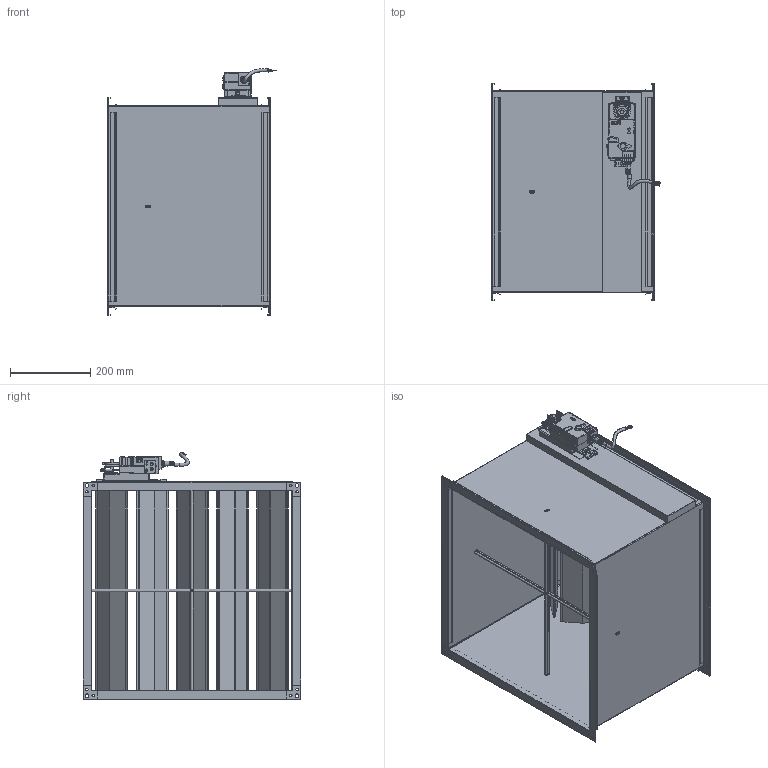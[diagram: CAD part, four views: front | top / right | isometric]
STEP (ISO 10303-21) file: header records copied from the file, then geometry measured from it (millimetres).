
FILE_DESCRIPTION (( 'STEP AP214' ), '1' );
FILE_NAME ('VAV-S500500.STEP', '2025-05-07T13:45:45', ( '' ), ( '' ), 'SwSTEP 2.0', 'SolidWorks 2025', '' );
FILE_SCHEMA (( 'AUTOMOTIVE_DESIGN' ));
Length unit declared in the file: millimetre
Products named in the file (1): VAV-S500500
Bounding box: 420.06 x 541 x 613.69 mm (x, y, z)
Surface area: 3057279.5 mm2 (no closed solid volume)
Topology: 0 solids, 58 shells, 2130 faces, 5506 edges, 3502 vertices
Faces by surface type: plane 1549, cylinder 528, bspline 24, sphere 18, cone 10, torus 1
Full cylindrical faces by diameter (mm): 1 x4, 4 x8, 6 x17, 8 x1, 9 x8, 10 x1, 11 x1, 21 x2
Entity records: 92681 total; most frequent: CARTESIAN_POINT 41919, ORIENTED_EDGE 10779, DIRECTION 7001, EDGE_CURVE 5413, VERTEX_POINT 3473, B_SPLINE_CURVE_WITH_KNOTS 3162, AXIS2_PLACEMENT_3D 2675, EDGE_LOOP 2343
